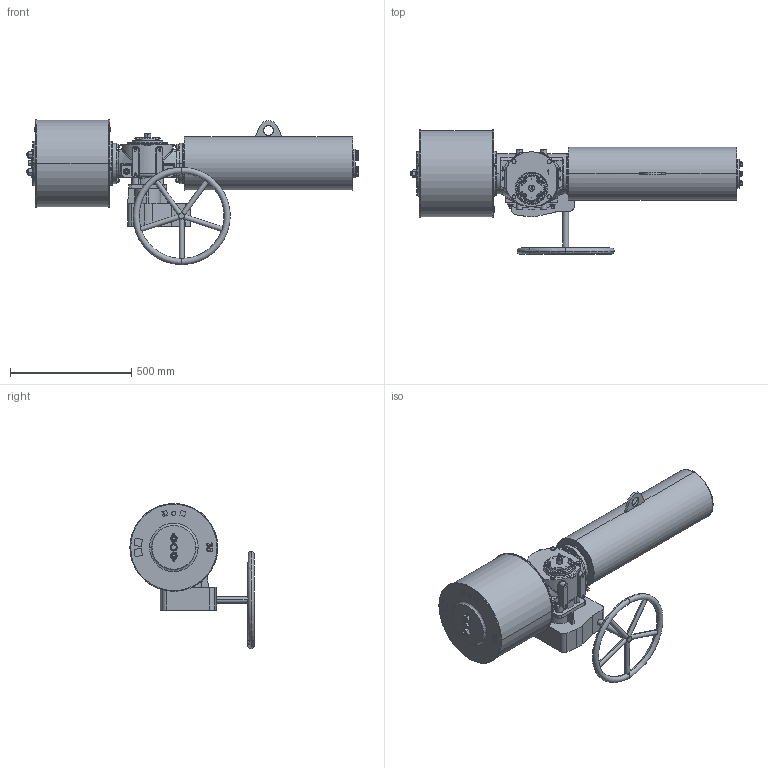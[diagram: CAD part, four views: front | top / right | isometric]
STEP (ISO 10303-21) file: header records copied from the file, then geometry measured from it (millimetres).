
FILE_DESCRIPTION (( 'STEP AP203' ), '1' );
FILE_NAME ('VTS1-350-SR-MW-FC.STEP', '2023-01-01T07:29:00', ( '' ), ( '' ), 'SwSTEP 2.0', 'SolidWorks 2020', '' );
FILE_SCHEMA (( 'CONFIG_CONTROL_DESIGN' ));
Length unit declared in the file: millimetre
Products named in the file (1): VTS1-350-SR-MW-FC
Bounding box: 1366.78 x 511.5 x 597.5 mm (x, y, z)
Volume: 72265699.8 mm3; surface area: 2141370.8 mm2
Topology: 9 solids, 15 shells, 2100 faces, 5517 edges, 3481 vertices
Faces by surface type: plane 789, cylinder 611, cone 411, bspline 227, torus 34, sphere 28
Entity records: 91190 total; most frequent: CARTESIAN_POINT 42995, ORIENTED_EDGE 10846, DIRECTION 8926, EDGE_CURVE 5423, VERTEX_POINT 3481, AXIS2_PLACEMENT_3D 3419, EDGE_LOOP 2304, ADVANCED_FACE 2100
